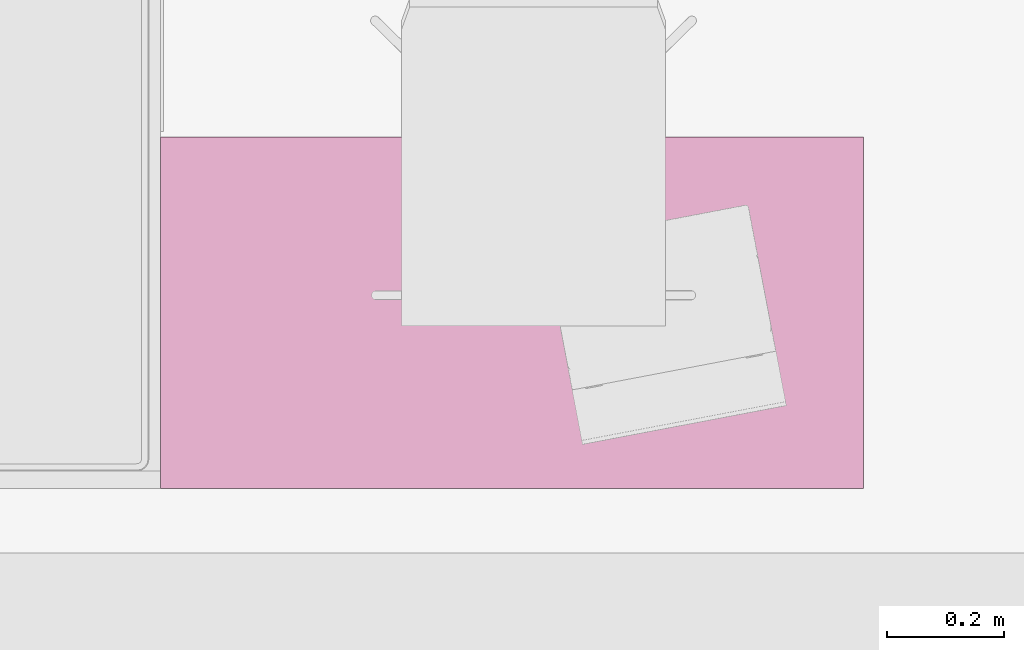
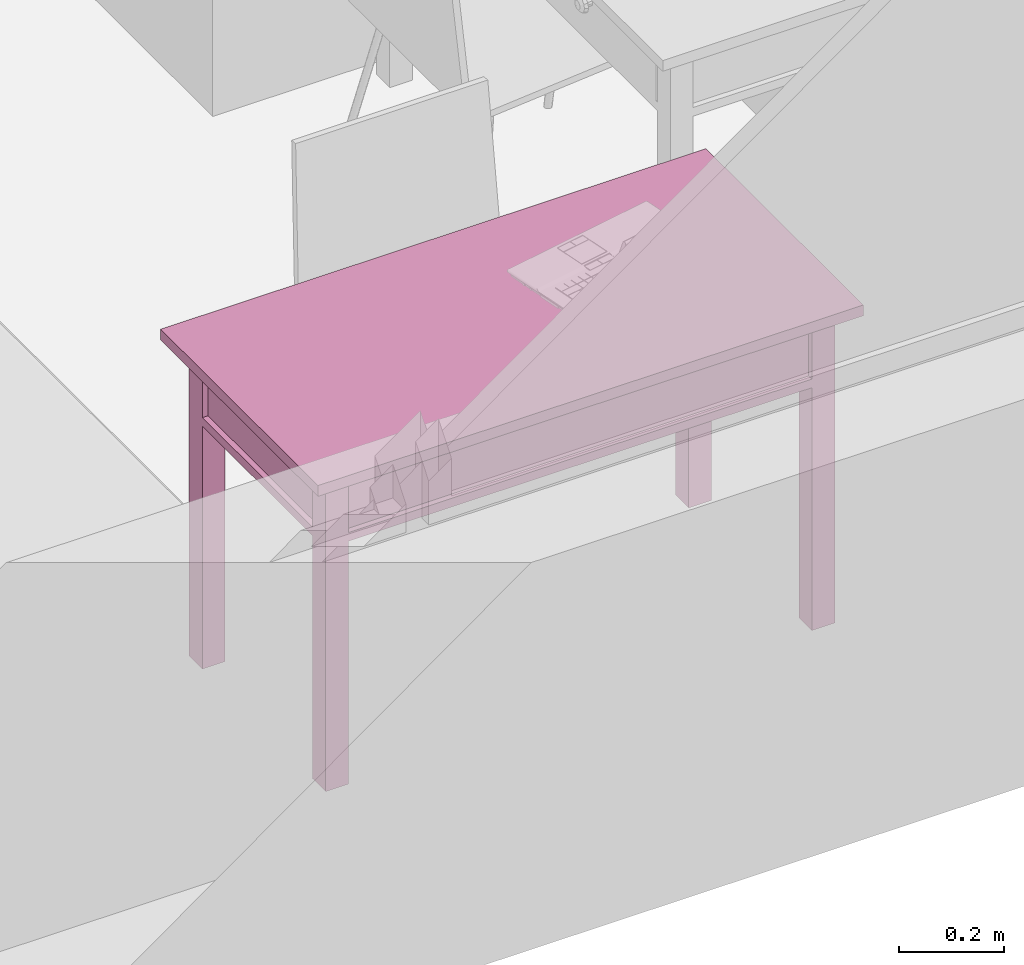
# One storey, part 74 of 165: 1 furnishing.
"""IFC2X3 building model written with IfcOpenShell, lengths in millimetres."""

import ifcopenshell
import ifcopenshell.guid

model = None  # the IFC model being written
_history = None  # IfcOwnerHistory: only IFC2X3 demands one
_inside = {}  # id of a spatial element -> (the spatial element, [elements in it])
_under = {}  # id of a project, library or spatial element -> (it, [spatial elements below it])
_declared = {}  # id of a project -> (the project, [libraries it declares])
_typed = {}  # id of a type object -> (the type object, [elements of that type])
_made_of = {}  # id of a material, layer set ... -> (it, [elements and type objects made of it])


def new_model(schema):
    """Start an empty IFC model of exactly this schema.

    Asked for "IFC4X3", IfcOpenShell would pick the latest addendum, in which some entities
    have other attributes; the version numbers below select the first issue.
    IFC2X3 requires an IfcOwnerHistory on every rooted entity: one is made here for all.
    """
    global model, _history
    if schema == "IFC4X3":
        model = ifcopenshell.file(schema_version=(4, 3, 0, 0))
    else:
        model = ifcopenshell.file(schema=schema)
    _inside.clear()
    _under.clear()
    _declared.clear()
    _typed.clear()
    _made_of.clear()
    _history = None
    if model.schema == "IFC2X3":
        org = make("IfcOrganization", Name="unknown")
        user = make(
            "IfcPersonAndOrganization",
            ThePerson=make("IfcPerson", FamilyName="unknown"),
            TheOrganization=org,
        )
        app = make(
            "IfcApplication",
            ApplicationDeveloper=org,
            Version="unknown",
            ApplicationFullName="unknown",
            ApplicationIdentifier="unknown",
        )
        _history = make(
            "IfcOwnerHistory",
            OwningUser=user,
            OwningApplication=app,
            ChangeAction="ADDED",
            CreationDate=0,
        )
    return model


def make(cls, **values):
    """One entity of the class cls with the attributes given. An attribute that is None is left unset."""
    return model.create_entity(
        cls, **{name: value for name, value in values.items() if value is not None}
    )


def entity(cls, *values):
    """Any entity or typed value of the class cls, its attributes in the order of the schema. None: left unset."""
    e = model.create_entity(cls)
    for i, value in enumerate(values):
        if value is not None:
            e[i] = value
    return e


def rooted(cls, **values):
    """An entity with a GlobalId (a new one), such as an element, a storey or a relation."""
    return make(cls, GlobalId=ifcopenshell.guid.new(), OwnerHistory=_history, **values)


def si_unit(unit_type, name, prefix=None):
    """IfcSIUnit, for example si_unit("LENGTHUNIT", "METRE", prefix="MILLI")."""
    return make("IfcSIUnit", UnitType=unit_type, Prefix=prefix, Name=name)


def converted_unit(unit_type, name, factor, base, dimensions=None, offset=None):
    """IfcConversionBasedUnit, such as the inch: factor (a typed value) times the base unit."""
    return make(
        "IfcConversionBasedUnit"
        if offset is None
        else "IfcConversionBasedUnitWithOffset",
        ConversionOffset=offset,
        Dimensions=None
        if dimensions is None
        else entity("IfcDimensionalExponents", *dimensions),
        UnitType=unit_type,
        Name=name,
        ConversionFactor=make(
            "IfcMeasureWithUnit", ValueComponent=factor, UnitComponent=base
        ),
    )


def money_unit(currency):
    """IfcMonetaryUnit."""
    return make("IfcMonetaryUnit", Currency=currency)


def assignment(units):
    """IfcUnitAssignment: the units of a project."""
    return None if units is None else make("IfcUnitAssignment", Units=units)


def point(xyz):
    """IfcCartesianPoint."""
    return None if xyz is None else make("IfcCartesianPoint", Coordinates=xyz)


def direction(xyz):
    """IfcDirection."""
    return None if xyz is None else make("IfcDirection", DirectionRatios=xyz)


def frame(location, z_axis=None, x_axis=None):
    """IfcAxis2Placement3D, a coordinate frame: its origin and axes. An axis left out is left unset."""
    return make(
        "IfcAxis2Placement3D",
        Location=point(location),
        Axis=direction(z_axis),
        RefDirection=direction(x_axis),
    )


def origin_with_axes():
    """The frame at (0, 0, 0) with the z axis (0, 0, 1) and the x axis (1, 0, 0) written out."""
    return frame((0.0, 0.0, 0.0), z_axis=(0.0, 0.0, 1.0), x_axis=(1.0, 0.0, 0.0))


def place(relative_to, where):
    """IfcLocalPlacement: puts the frame where relative to a parent placement (None: the world)."""
    return make(
        "IfcLocalPlacement", PlacementRelTo=relative_to, RelativePlacement=where
    )


def context(
    kind, dimensions, precision=None, world=None, true_north=None, identifier=None
):
    """IfcGeometricRepresentationContext, for example the 3D "Model" context."""
    return make(
        "IfcGeometricRepresentationContext",
        ContextIdentifier=identifier,
        ContextType=kind,
        CoordinateSpaceDimension=dimensions,
        Precision=precision,
        WorldCoordinateSystem=world,
        TrueNorth=true_north,
    )


def subcontext(parent, identifier, kind, view, scale=None):
    """IfcGeometricRepresentationSubContext, for example "Body" below "Model"."""
    return make(
        "IfcGeometricRepresentationSubContext",
        ContextIdentifier=identifier,
        ContextType=kind,
        ParentContext=parent,
        TargetScale=scale,
        TargetView=view,
    )


def project(units=None, contexts=None):
    """IfcProject with its units and contexts."""
    return rooted(
        "IfcProject",
        Name="project",
        RepresentationContexts=contexts,
        UnitsInContext=assignment(units),
    )


def spatial(cls, under=None, at=None, **own):
    """A site, building, storey or space (cls), placed at a placement, below another one or the project."""
    s = rooted(cls, ObjectPlacement=at, **own)
    if under is not None:
        _under.setdefault(under.id(), (under, []))[1].append(s)
    return s


def faces_of(points, faces, orient=None, outer=None):
    """IfcFace entities. A face is a list of loops; a loop is a list of indices into points, from 0.

    orient and outer hold one flag for each loop. By default every Orientation is true, the
    first loop of a face is its IfcFaceOuterBound and the others are IfcFaceBound.
    """
    made = []
    for i, loops in enumerate(faces):
        bounds = []
        for j, loop in enumerate(loops):
            is_outer = j == 0 if outer is None else outer[i][j]
            bounds.append(
                make(
                    "IfcFaceOuterBound" if is_outer else "IfcFaceBound",
                    Bound=make("IfcPolyLoop", Polygon=[points[k] for k in loop]),
                    Orientation=True if orient is None else orient[i][j],
                )
            )
        made.append(make("IfcFace", Bounds=bounds))
    return made


def faceted_brep(points, faces, orient=None, outer=None, voids=None):
    """IfcFacetedBrep: a solid bounded by flat faces; with voids (closed shells), ...WithVoids."""
    shared = [point(p) for p in points]
    hull = make("IfcClosedShell", CfsFaces=faces_of(shared, faces, orient, outer))
    if voids is None:
        return make("IfcFacetedBrep", Outer=hull)
    return make(
        "IfcFacetedBrepWithVoids",
        Outer=hull,
        Voids=[
            make(cls, CfsFaces=faces_of(shared, fs, o, b)) for cls, fs, o, b in voids
        ],
    )


def shape(context_of_items, identifier, shape_type, items):
    """IfcShapeRepresentation: the items that make up one representation, for example the "Body"."""
    return make(
        "IfcShapeRepresentation",
        ContextOfItems=context_of_items,
        RepresentationIdentifier=identifier,
        RepresentationType=shape_type,
        Items=items,
    )


def source(mapping_origin, context_of_items, identifier, shape_type, items):
    """IfcRepresentationMap: a shape defined once, which mapped items show again and again."""
    return make(
        "IfcRepresentationMap",
        MappingOrigin=mapping_origin,
        MappedRepresentation=shape(context_of_items, identifier, shape_type, items),
    )


def transform(
    local_origin,
    x_axis=None,
    y_axis=None,
    z_axis=None,
    scale=None,
    scale2=None,
    scale3=None,
    uniform=True,
):
    """IfcCartesianTransformationOperator3D, or its non-uniform kind. x_axis, y_axis, z_axis: its Axis1, 2, 3."""
    if uniform:
        return make(
            "IfcCartesianTransformationOperator3D",
            Axis1=direction(x_axis),
            Axis2=direction(y_axis),
            LocalOrigin=point(local_origin),
            Scale=scale,
            Axis3=direction(z_axis),
        )
    return make(
        "IfcCartesianTransformationOperator3DnonUniform",
        Axis1=direction(x_axis),
        Axis2=direction(y_axis),
        LocalOrigin=point(local_origin),
        Scale=scale,
        Axis3=direction(z_axis),
        Scale2=scale2,
        Scale3=scale3,
    )


def mapped(mapping_source, mapping_target):
    """IfcMappedItem: shows the shape of a source again, moved by a transform."""
    return make(
        "IfcMappedItem", MappingSource=mapping_source, MappingTarget=mapping_target
    )


def material(Name=None, Category=None):
    """IfcMaterial."""
    return make("IfcMaterial", Name=Name, Category=Category)


def material_list(materials):
    """IfcMaterialList."""
    return make("IfcMaterialList", Materials=materials)


def made_of(thing, what):
    """Note that an element or type object is made of a material, layer set ...; save() writes the relation."""
    if what is not None:
        _made_of.setdefault(what.id(), (what, []))[1].append(thing)
    return thing


def type_object(cls, material=None, **own):
    """A type object (cls), such as IfcWallType, which elements share."""
    return made_of(rooted(cls, **own), material)


def element(
    cls,
    number,
    at=None,
    inside=None,
    cuts=None,
    type_object=None,
    material=None,
    context=None,
    identifier="Body",
    shape_type=None,
    held_by="IfcProductDefinitionShape",
    body=None,
    shapes=None,
    **own,
):
    """One element of the class cls, such as IfcWall. Its Tag is "e" and its number.

    at: its placement. inside: the storey or other place that contains it. cuts: it is an
    opening in that element (IfcRelVoidsElement). A single representation is given by context,
    identifier, shape_type and body (its items); several are given by shapes. held_by: the class
    of the entity that holds the representations. save() writes the other relations.
    """
    e = rooted(cls, Tag="e%d" % number, ObjectPlacement=at, **own)
    if body is not None:
        shapes = [shape(context, identifier, shape_type, body)]
    if shapes is not None:
        e.Representation = make(held_by, Representations=shapes)
    if inside is not None:
        _inside.setdefault(inside.id(), (inside, []))[1].append(e)
    if cuts is not None:
        rooted(
            "IfcRelVoidsElement", RelatingBuildingElement=cuts, RelatedOpeningElement=e
        )
    if type_object is not None:
        _typed.setdefault(type_object.id(), (type_object, []))[1].append(e)
    return made_of(e, material)


def aggregate(whole, parts):
    """IfcRelAggregates: a whole, such as a stair, and the parts it consists of."""
    return rooted("IfcRelAggregates", RelatingObject=whole, RelatedObjects=parts)


def save(model, path):
    """Write the relations noted so far, then the file.

    IfcRelAggregates (storeys below a building ...), IfcRelContainedInSpatialStructure (elements
    in a storey), IfcRelDefinesByType, IfcRelAssociatesMaterial and IfcRelDeclares: one each for
    every whole, place, type object, material and project.
    """
    for whole, parts in _under.values():
        aggregate(whole, parts)
    for where, things in _inside.values():
        rooted(
            "IfcRelContainedInSpatialStructure",
            RelatedElements=things,
            RelatingStructure=where,
        )
    for kind, things in _typed.values():
        rooted("IfcRelDefinesByType", RelatedObjects=things, RelatingType=kind)
    for what, things in _made_of.values():
        rooted("IfcRelAssociatesMaterial", RelatedObjects=things, RelatingMaterial=what)
    for by, libraries in _declared.values():
        rooted("IfcRelDeclares", RelatingContext=by, RelatedDefinitions=libraries)
    model.write(path)


model = new_model("IFC2X3")

# Units and contexts
model_context = context("Model", 3, precision=1e-05, world=origin_with_axes(), true_north=direction((0.0, 1.0)))
body_context = subcontext(model_context, "Body", "Model", "MODEL_VIEW")
ifc_project = project(units=[si_unit("LENGTHUNIT", "METRE", prefix="MILLI"), si_unit("AREAUNIT", "SQUARE_METRE"), si_unit("VOLUMEUNIT", "CUBIC_METRE"), converted_unit("PLANEANGLEUNIT", "DEGREE", entity("IfcPlaneAngleMeasure", 0.0174532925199), si_unit("PLANEANGLEUNIT", "RADIAN"), dimensions=[0, 0, 0, 0, 0, 0, 0]), si_unit("SOLIDANGLEUNIT", "STERADIAN"), money_unit("USD"), converted_unit("TIMEUNIT", "Year", entity("IfcTimeMeasure", 31556926.0), si_unit("TIMEUNIT", "SECOND"), dimensions=[0, 0, 0, 0, 0, 0, 0]), si_unit("MASSUNIT", "GRAM"), si_unit("THERMODYNAMICTEMPERATUREUNIT", "DEGREE_CELSIUS"), si_unit("LUMINOUSINTENSITYUNIT", "LUMEN")], contexts=[model_context])

# Site, building, storey
site_placement = place(None, origin_with_axes())
site = spatial("IfcSite", under=ifc_project, at=site_placement, Name="Site", CompositionType="ELEMENT")
building_placement = place(site_placement, origin_with_axes())
building = spatial("IfcBuilding", under=site, at=building_placement, Name="Building", CompositionType="ELEMENT")
storey_placement = place(building_placement, frame((0.0, 0.0, 6300.0), z_axis=(0.0, 0.0, 1.0), x_axis=(1.0, 0.0, 0.0)))
storey = spatial("IfcBuildingStorey", under=building, at=storey_placement, Name="4KORRUS", CompositionType="ELEMENT", Elevation=6300.0)

# Furnishing
ifc_material = material(Name="Background")
ifc_material_list = material_list([ifc_material])
furnishing_element_type = type_object("IfcFurnishingElementType", Name="Rectangular Table 01 19")
shared_shape = source(origin_with_axes(), body_context, "Body", "Brep", [
    faceted_brep([(90.0, 40.0, 0.0), (40.0, 40.0, 0.0), (40.0, 90.0, 0.0), (90.0, 90.0, 0.0), (90.0, 40.0, 725.0), (40.0, 40.0, 725.0), (40.0, 90.0, 725.0), (90.0, 90.0, 725.0)], [[[0, 1, 2, 3]], [[1, 0, 4, 5]], [[2, 1, 5, 6]], [[3, 2, 6, 7]], [[0, 3, 7, 4]], [[5, 4, 7, 6]]]),
    faceted_brep([(1160.0, 40.0, 0.0), (1110.0, 40.0, 0.0), (1110.0, 90.0, 0.0), (1160.0, 90.0, 0.0), (1160.0, 40.0, 725.0), (1110.0, 40.0, 725.0), (1110.0, 90.0, 725.0), (1160.0, 90.0, 725.0)], [[[0, 1, 2, 3]], [[1, 0, 4, 5]], [[2, 1, 5, 6]], [[3, 2, 6, 7]], [[0, 3, 7, 4]], [[5, 4, 7, 6]]]),
    faceted_brep([(90.0, 510.0, 0.0), (40.0, 510.0, 0.0), (40.0, 560.0, 0.0), (90.0, 560.0, 0.0), (90.0, 510.0, 725.0), (40.0, 510.0, 725.0), (40.0, 560.0, 725.0), (90.0, 560.0, 725.0)], [[[0, 1, 2, 3]], [[1, 0, 4, 5]], [[2, 1, 5, 6]], [[3, 2, 6, 7]], [[0, 3, 7, 4]], [[5, 4, 7, 6]]]),
    faceted_brep([(1160.0, 510.0, 0.0), (1110.0, 510.0, 0.0), (1110.0, 560.0, 0.0), (1160.0, 560.0, 0.0), (1160.0, 510.0, 725.0), (1110.0, 510.0, 725.0), (1110.0, 560.0, 725.0), (1160.0, 560.0, 725.0)], [[[0, 1, 2, 3]], [[1, 0, 4, 5]], [[2, 1, 5, 6]], [[3, 2, 6, 7]], [[0, 3, 7, 4]], [[5, 4, 7, 6]]]),
    faceted_brep([(1160.0, 40.0, 565.0), (40.0, 40.0, 565.0), (40.0, 560.0, 565.0), (1160.0, 560.0, 565.0), (1160.0, 40.0, 585.0), (40.0, 40.0, 585.0), (40.0, 560.0, 585.0), (1160.0, 560.0, 585.0)], [[[0, 1, 2, 3]], [[1, 0, 4, 5]], [[2, 1, 5, 6]], [[3, 2, 6, 7]], [[0, 3, 7, 4]], [[5, 4, 7, 6]]]),
    faceted_brep([(1110.0, 52.5, 585.0), (90.0, 52.5, 585.0), (90.0, 77.5, 585.0), (1110.0, 77.5, 585.0), (1110.0, 52.5, 745.0), (90.0, 52.5, 745.0), (90.0, 77.5, 745.0), (1110.0, 77.5, 745.0)], [[[0, 1, 2, 3]], [[1, 0, 4, 5]], [[2, 1, 5, 6]], [[3, 2, 6, 7]], [[0, 3, 7, 4]], [[5, 4, 7, 6]]]),
    faceted_brep([(77.5, 90.0, 585.0), (52.5, 90.0, 585.0), (52.5, 510.0, 585.0), (77.5, 510.0, 585.0), (77.5, 90.0, 745.0), (52.5, 90.0, 745.0), (52.5, 510.0, 745.0), (77.5, 510.0, 745.0)], [[[0, 1, 2, 3]], [[1, 0, 4, 5]], [[2, 1, 5, 6]], [[3, 2, 6, 7]], [[0, 3, 7, 4]], [[5, 4, 7, 6]]]),
    faceted_brep([(90.0, 547.5, 585.0), (1110.0, 547.5, 585.0), (1110.0, 522.5, 585.0), (90.0, 522.5, 585.0), (90.0, 547.5, 745.0), (1110.0, 547.5, 745.0), (1110.0, 522.5, 745.0), (90.0, 522.5, 745.0)], [[[0, 1, 2, 3]], [[1, 0, 4, 5]], [[2, 1, 5, 6]], [[3, 2, 6, 7]], [[0, 3, 7, 4]], [[5, 4, 7, 6]]]),
    faceted_brep([(1122.5, 510.0, 585.0), (1147.5, 510.0, 585.0), (1147.5, 90.0, 585.0), (1122.5, 90.0, 585.0), (1122.5, 510.0, 745.0), (1147.5, 510.0, 745.0), (1147.5, 90.0, 745.0), (1122.5, 90.0, 745.0)], [[[0, 1, 2, 3]], [[1, 0, 4, 5]], [[2, 1, 5, 6]], [[3, 2, 6, 7]], [[0, 3, 7, 4]], [[5, 4, 7, 6]]]),
    faceted_brep([(597.5, 40.0, 585.0), (95.0, 40.0, 585.0), (95.0, 60.0, 585.0), (597.5, 60.0, 585.0), (597.5, 40.0, 745.0), (95.0, 40.0, 745.0), (95.0, 60.0, 745.0), (597.5, 60.0, 745.0)], [[[0, 1, 2, 3]], [[1, 0, 4, 5]], [[2, 1, 5, 6]], [[3, 2, 6, 7]], [[0, 3, 7, 4]], [[5, 4, 7, 6]]]),
    faceted_brep([(1105.0, 40.0, 585.0), (602.5, 40.0, 585.0), (602.5, 60.0, 585.0), (1105.0, 60.0, 585.0), (1105.0, 40.0, 745.0), (602.5, 40.0, 745.0), (602.5, 60.0, 745.0), (1105.0, 60.0, 745.0)], [[[0, 1, 2, 3]], [[1, 0, 4, 5]], [[2, 1, 5, 6]], [[3, 2, 6, 7]], [[0, 3, 7, 4]], [[5, 4, 7, 6]]]),
    faceted_brep([(354.91, 40.0, 660.0), (351.25, 40.0, 656.34), (346.25, 40.0, 655.0), (341.25, 40.0, 656.34), (337.59, 40.0, 660.0), (336.25, 40.0, 665.0), (337.59, 40.0, 670.0), (341.25, 40.0, 673.66), (346.25, 40.0, 675.0), (351.25, 40.0, 673.66), (354.91, 40.0, 670.0), (356.25, 40.0, 665.0), (354.91, 25.0, 660.0), (351.25, 25.0, 656.34), (346.25, 25.0, 655.0), (341.25, 25.0, 656.34), (337.59, 25.0, 660.0), (336.25, 25.0, 665.0), (337.59, 25.0, 670.0), (341.25, 25.0, 673.66), (346.25, 25.0, 675.0), (351.25, 25.0, 673.66), (354.91, 25.0, 670.0), (356.25, 25.0, 665.0)], [[[0, 1, 2, 3, 4, 5, 6, 7, 8, 9, 10, 11]], [[1, 0, 12, 13]], [[2, 1, 13, 14]], [[3, 2, 14, 15]], [[4, 3, 15, 16]], [[5, 4, 16, 17]], [[6, 5, 17, 18]], [[7, 6, 18, 19]], [[8, 7, 19, 20]], [[9, 8, 20, 21]], [[10, 9, 21, 22]], [[11, 10, 22, 23]], [[0, 11, 23, 12]], [[12, 23, 22, 21, 20, 19, 18, 17, 16, 15, 14, 13]]]),
    faceted_brep([(356.25, 12.01, 665.0), (346.25, 10.0, 665.0), (354.91, 12.01, 660.0), (354.91, 12.01, 670.0), (351.25, 12.01, 656.34), (363.571, 17.5, 665.0), (361.25, 17.5, 656.34), (351.25, 12.01, 673.66), (361.25, 17.5, 673.66), (346.25, 12.01, 655.0), (354.91, 17.5, 650.0), (366.25, 25.0, 665.0), (363.571, 25.0, 655.0), (346.25, 12.01, 675.0), (354.91, 17.5, 680.0), (363.571, 25.0, 675.0), (341.25, 12.01, 656.34), (346.25, 17.5, 647.679), (356.25, 25.0, 647.679), (346.25, 25.0, 645.0), (336.25, 25.0, 647.679), (328.929, 25.0, 655.0), (326.25, 25.0, 665.0), (328.929, 25.0, 675.0), (336.25, 25.0, 682.321), (346.25, 25.0, 685.0), (356.25, 25.0, 682.321), (341.25, 12.01, 673.66), (346.25, 17.5, 682.321), (337.59, 12.01, 660.0), (337.59, 17.5, 650.0), (331.25, 17.5, 656.34), (328.929, 17.5, 665.0), (331.25, 17.5, 673.66), (337.59, 17.5, 680.0), (337.59, 12.01, 670.0), (336.25, 12.01, 665.0)], [[[0, 1, 2]], [[3, 1, 0]], [[2, 1, 4]], [[5, 0, 2, 6]], [[7, 1, 3]], [[8, 3, 0, 5]], [[4, 1, 9]], [[6, 2, 4, 10]], [[11, 5, 6, 12]], [[13, 1, 7]], [[14, 7, 3, 8]], [[15, 8, 5, 11]], [[9, 1, 16]], [[10, 4, 9, 17]], [[12, 6, 10, 18]], [[12, 18, 19, 20, 21, 22, 23, 24, 25, 26, 15, 11]], [[27, 1, 13]], [[28, 13, 7, 14]], [[26, 14, 8, 15]], [[16, 1, 29]], [[17, 9, 16, 30]], [[18, 10, 17, 19]], [[19, 17, 30, 20]], [[20, 30, 31, 21]], [[21, 31, 32, 22]], [[22, 32, 33, 23]], [[23, 33, 34, 24]], [[24, 34, 28, 25]], [[25, 28, 14, 26]], [[35, 1, 27]], [[34, 27, 13, 28]], [[29, 1, 36]], [[30, 16, 29, 31]], [[31, 29, 36, 32]], [[32, 36, 35, 33]], [[33, 35, 27, 34]], [[36, 1, 35]]]),
    faceted_brep([(862.41, 40.0, 660.0), (858.75, 40.0, 656.34), (853.75, 40.0, 655.0), (848.75, 40.0, 656.34), (845.09, 40.0, 660.0), (843.75, 40.0, 665.0), (845.09, 40.0, 670.0), (848.75, 40.0, 673.66), (853.75, 40.0, 675.0), (858.75, 40.0, 673.66), (862.41, 40.0, 670.0), (863.75, 40.0, 665.0), (862.41, 25.0, 660.0), (858.75, 25.0, 656.34), (853.75, 25.0, 655.0), (848.75, 25.0, 656.34), (845.09, 25.0, 660.0), (843.75, 25.0, 665.0), (845.09, 25.0, 670.0), (848.75, 25.0, 673.66), (853.75, 25.0, 675.0), (858.75, 25.0, 673.66), (862.41, 25.0, 670.0), (863.75, 25.0, 665.0)], [[[0, 1, 2, 3, 4, 5, 6, 7, 8, 9, 10, 11]], [[1, 0, 12, 13]], [[2, 1, 13, 14]], [[3, 2, 14, 15]], [[4, 3, 15, 16]], [[5, 4, 16, 17]], [[6, 5, 17, 18]], [[7, 6, 18, 19]], [[8, 7, 19, 20]], [[9, 8, 20, 21]], [[10, 9, 21, 22]], [[11, 10, 22, 23]], [[0, 11, 23, 12]], [[12, 23, 22, 21, 20, 19, 18, 17, 16, 15, 14, 13]]]),
    faceted_brep([(863.75, 12.01, 665.0), (853.75, 10.0, 665.0), (862.41, 12.01, 660.0), (862.41, 12.01, 670.0), (858.75, 12.01, 656.34), (871.071, 17.5, 665.0), (868.75, 17.5, 656.34), (858.75, 12.01, 673.66), (868.75, 17.5, 673.66), (853.75, 12.01, 655.0), (862.41, 17.5, 650.0), (873.75, 25.0, 665.0), (871.071, 25.0, 655.0), (853.75, 12.01, 675.0), (862.41, 17.5, 680.0), (871.071, 25.0, 675.0), (848.75, 12.01, 656.34), (853.75, 17.5, 647.679), (863.75, 25.0, 647.679), (853.75, 25.0, 645.0), (843.75, 25.0, 647.679), (836.429, 25.0, 655.0), (833.75, 25.0, 665.0), (836.429, 25.0, 675.0), (843.75, 25.0, 682.321), (853.75, 25.0, 685.0), (863.75, 25.0, 682.321), (848.75, 12.01, 673.66), (853.75, 17.5, 682.321), (845.09, 12.01, 660.0), (845.09, 17.5, 650.0), (838.75, 17.5, 656.34), (836.429, 17.5, 665.0), (838.75, 17.5, 673.66), (845.09, 17.5, 680.0), (845.09, 12.01, 670.0), (843.75, 12.01, 665.0)], [[[0, 1, 2]], [[3, 1, 0]], [[2, 1, 4]], [[5, 0, 2, 6]], [[7, 1, 3]], [[8, 3, 0, 5]], [[4, 1, 9]], [[6, 2, 4, 10]], [[11, 5, 6, 12]], [[13, 1, 7]], [[14, 7, 3, 8]], [[15, 8, 5, 11]], [[9, 1, 16]], [[10, 4, 9, 17]], [[12, 6, 10, 18]], [[12, 18, 19, 20, 21, 22, 23, 24, 25, 26, 15, 11]], [[27, 1, 13]], [[28, 13, 7, 14]], [[26, 14, 8, 15]], [[16, 1, 29]], [[17, 9, 16, 30]], [[18, 10, 17, 19]], [[19, 17, 30, 20]], [[20, 30, 31, 21]], [[21, 31, 32, 22]], [[22, 32, 33, 23]], [[23, 33, 34, 24]], [[24, 34, 28, 25]], [[25, 28, 14, 26]], [[35, 1, 27]], [[34, 27, 13, 28]], [[29, 1, 36]], [[30, 16, 29, 31]], [[31, 29, 36, 32]], [[32, 36, 35, 33]], [[33, 35, 27, 34]], [[36, 1, 35]]]),
    faceted_brep([(1200.0, 0.0, 725.0), (0.0, 0.0, 725.0), (0.0, 600.0, 725.0), (1200.0, 600.0, 725.0), (1200.0, 0.0, 750.0), (0.0, 0.0, 750.0), (0.0, 600.0, 750.0), (1200.0, 600.0, 750.0)], [[[0, 1, 2, 3]], [[1, 0, 4, 5]], [[2, 1, 5, 6]], [[3, 2, 6, 7]], [[0, 3, 7, 4]], [[5, 4, 7, 6]]]),
])
furnishing_placement = place(storey_placement, frame((-36965.2967033, -18929.2398994, 0.0), z_axis=(0.0, 0.0, 1.0), x_axis=(-1.0, 0.0, 0.0)))
element("IfcFurnishingElement", 1, at=furnishing_placement, inside=storey, type_object=furnishing_element_type, material=ifc_material_list, Name="FU - 011", context=body_context, shape_type="MappedRepresentation", body=[
    mapped(shared_shape, transform((0.0, 0.0, 0.0))),
])

save(model, "model.ifc")
